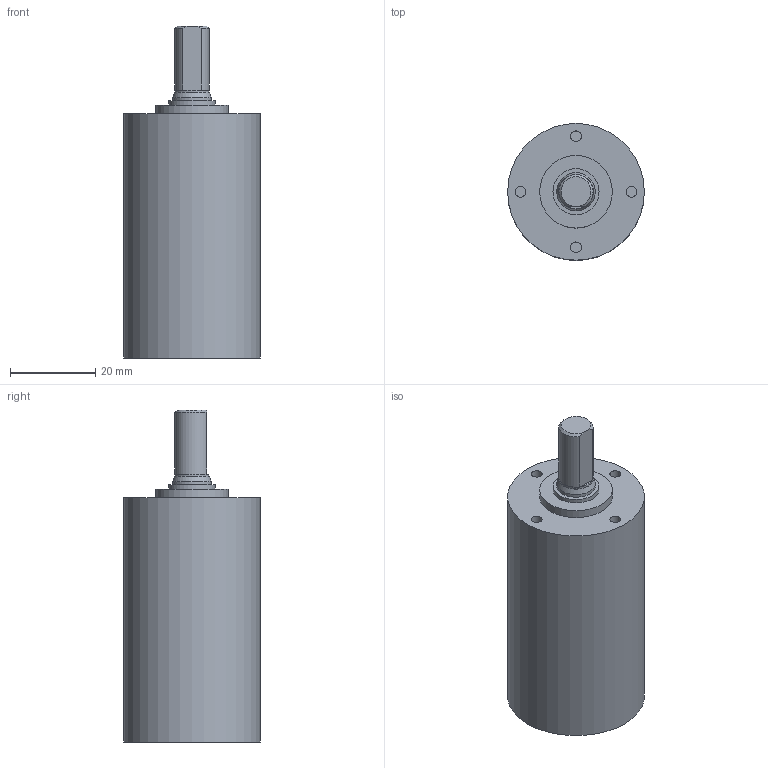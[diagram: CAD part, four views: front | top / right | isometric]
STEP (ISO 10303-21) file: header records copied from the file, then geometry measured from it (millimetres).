
FILE_DESCRIPTION(/* description */ (''),/* implementation_level */ '2;1');
FILE_NAME(/* name */ '32-3_4stage.stp',/* time_stamp */ '2021-02-23T06:58:06+01:00',/* author */ ('DR. FRITZ FAULHABER GmbH & Co. KG'),/* organization */ ('DR. FRITZ FAULHABER GmbH & Co. KG'),/* preprocessor_version */ 'ST-DEVELOPER v16.7',/* originating_system */ 'SIEMENS PLM Software NX 1919',/* authorisation */ '');
FILE_SCHEMA (('AUTOMOTIVE_DESIGN { 1 0 10303 214 3 1 1 1 }'));
Length unit declared in the file: millimetre
Products named in the file (1): 012019_A_5-TP-00213
Bounding box: 32 x 32 x 77.7 mm (x, y, z)
Volume: 39414.1 mm3; surface area: 9234 mm2
Topology: 1 solids, 1 shells, 37 faces, 71 edges, 51 vertices
Faces by surface type: plane 19, cylinder 16, cone 2
Full cylindrical faces by diameter (mm): 2.5 x4, 7.9 x1, 9 x1, 10.8 x1, 11.8 x1, 13.5 x1, 17 x1, 26.9 x1, 27.57 x1, 30 x1, 30.459 x1, 32 x1
Entity records: 904 total; most frequent: DIRECTION 172, CARTESIAN_POINT 136, ORIENTED_EDGE 86, AXIS2_PLACEMENT_3D 83, EDGE_LOOP 67, FACE_BOUND 56, CIRCLE 45, EDGE_CURVE 43
